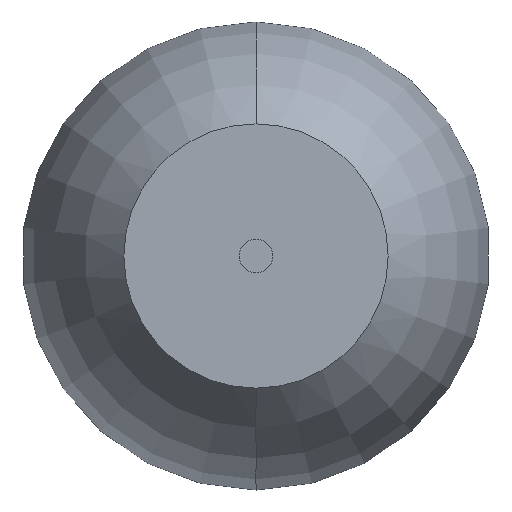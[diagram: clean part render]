
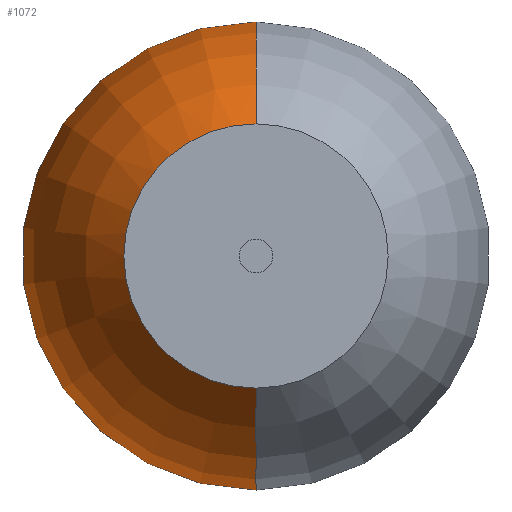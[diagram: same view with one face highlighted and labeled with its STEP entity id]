
A CAD part, left-side view. The second image highlights one B-rep face of the part: STEP entity #1072.
In plain terms, the highlighted toroidal (fillet/blend) face has major radius 3.534 mm and minor radius 10.534 mm.
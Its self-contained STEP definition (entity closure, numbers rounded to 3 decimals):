
#23 = DIRECTION ( 'NONE',  ( 0., 0., -1. ) ) ;
#46 = VERTEX_POINT ( 'NONE', #437 ) ;
#164 = CARTESIAN_POINT ( 'NONE',  ( -7.432, 0., 3.931 ) ) ;
#220 = CIRCLE ( 'NONE', #238, 10.534 ) ;
#222 = EDGE_CURVE ( 'NONE', #46, #430, #1158, .T. ) ;
#238 = AXIS2_PLACEMENT_3D ( 'NONE', #1030, #1101, #518 ) ;
#259 = CARTESIAN_POINT ( 'NONE',  ( 7.432, 0., -3.931 ) ) ;
#262 = DIRECTION ( 'NONE',  ( 0., 0., 1. ) ) ;
#269 = DIRECTION ( 'NONE',  ( -1., 0., 0. ) ) ;
#275 = CARTESIAN_POINT ( 'NONE',  ( 0., 0., 0. ) ) ;
#335 = ORIENTED_EDGE ( 'NONE', *, *, #418, .T. ) ;
#383 = VERTEX_POINT ( 'NONE', #164 ) ;
#388 = CARTESIAN_POINT ( 'NONE',  ( 0., 0., -3.534 ) ) ;
#396 = TOROIDAL_SURFACE ( 'NONE', #884, -3.534, 10.534 ) ;
#418 = EDGE_CURVE ( 'NONE', #430, #745, #220, .T. ) ;
#430 = VERTEX_POINT ( 'NONE', #259 ) ;
#437 = CARTESIAN_POINT ( 'NONE',  ( 7.432, 0., 3.931 ) ) ;
#471 = CIRCLE ( 'NONE', #863, 3.931 ) ;
#475 = DIRECTION ( 'NONE',  ( 0., 0., 1. ) ) ;
#484 = ORIENTED_EDGE ( 'NONE', *, *, #1202, .F. ) ;
#518 = DIRECTION ( 'NONE',  ( 0., 0., 1. ) ) ;
#566 = DIRECTION ( 'NONE',  ( 0., -1., 0. ) ) ;
#619 = ORIENTED_EDGE ( 'NONE', *, *, #222, .T. ) ;
#688 = CARTESIAN_POINT ( 'NONE',  ( -7.432, 0., -3.931 ) ) ;
#723 = ORIENTED_EDGE ( 'NONE', *, *, #1162, .F. ) ;
#744 = CARTESIAN_POINT ( 'NONE',  ( -7.432, 0., 0. ) ) ;
#745 = VERTEX_POINT ( 'NONE', #688 ) ;
#767 = CARTESIAN_POINT ( 'NONE',  ( 7.432, 0., 0. ) ) ;
#803 = FACE_OUTER_BOUND ( 'NONE', #877, .T. ) ;
#832 = DIRECTION ( 'NONE',  ( -1., 0., 0. ) ) ;
#849 = AXIS2_PLACEMENT_3D ( 'NONE', #388, #566, #23 ) ;
#863 = AXIS2_PLACEMENT_3D ( 'NONE', #744, #832, #475 ) ;
#869 = DIRECTION ( 'NONE',  ( 0., 0., 1. ) ) ;
#876 = DIRECTION ( 'NONE',  ( -1., 0., 0. ) ) ;
#877 = EDGE_LOOP ( 'NONE', ( #619, #335, #723, #484 ) ) ;
#884 = AXIS2_PLACEMENT_3D ( 'NONE', #275, #269, #262 ) ;
#966 = CIRCLE ( 'NONE', #849, 10.534 ) ;
#1030 = CARTESIAN_POINT ( 'NONE',  ( 0., 0., 3.534 ) ) ;
#1072 = ADVANCED_FACE ( 'NONE', ( #803 ), #396, .T. ) ;
#1101 = DIRECTION ( 'NONE',  ( 0., 1., 0. ) ) ;
#1157 = AXIS2_PLACEMENT_3D ( 'NONE', #767, #876, #869 ) ;
#1158 = CIRCLE ( 'NONE', #1157, 3.931 ) ;
#1162 = EDGE_CURVE ( 'NONE', #383, #745, #471, .T. ) ;
#1202 = EDGE_CURVE ( 'NONE', #46, #383, #966, .T. ) ;
